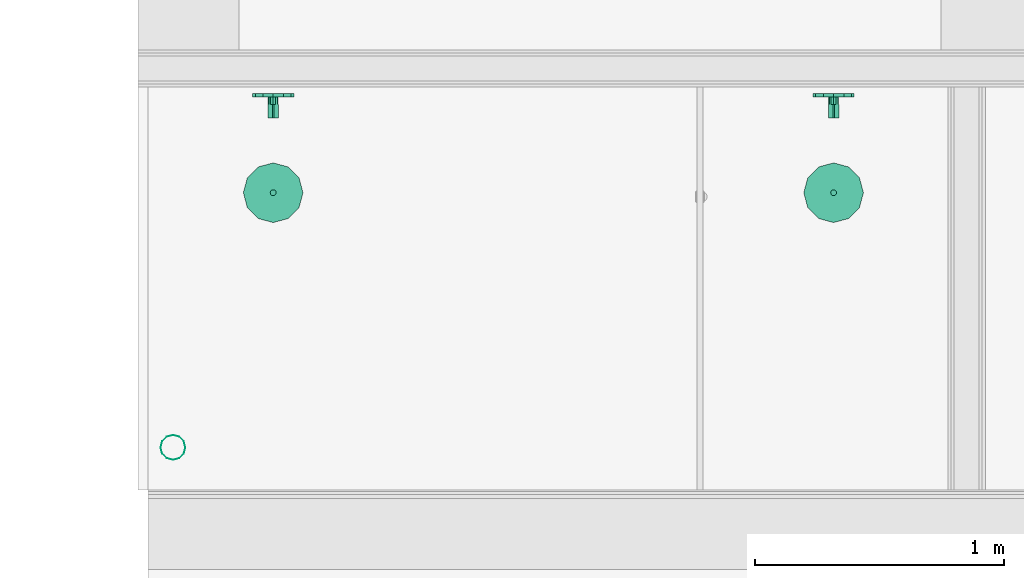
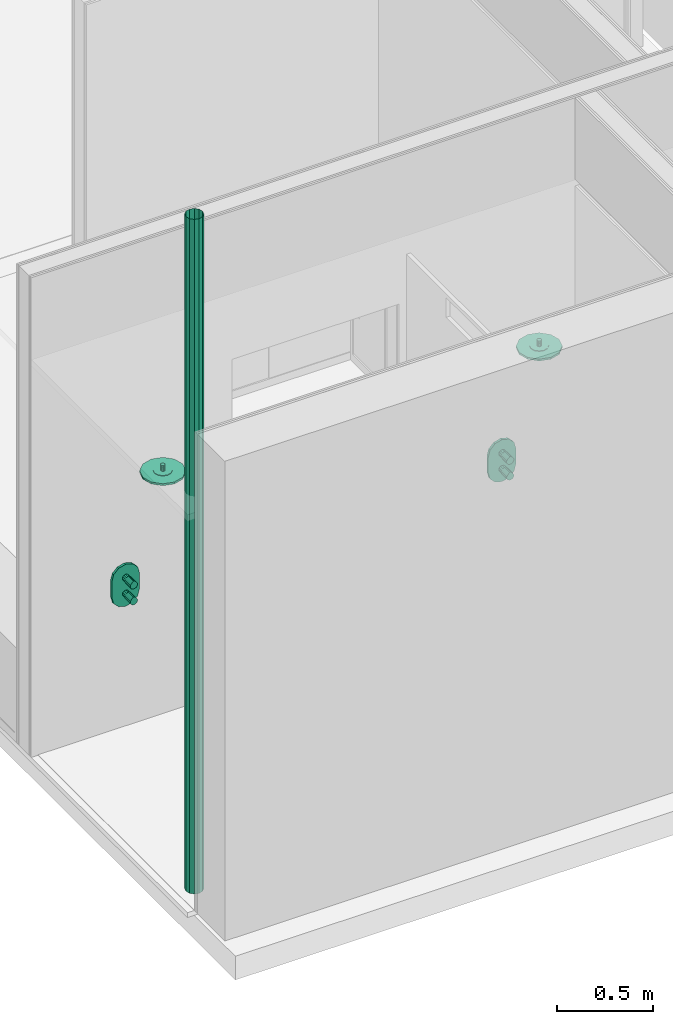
# One storey, part 27 of 35: 2 flow terminals, 1 distribution flow element.
"""IFC2X3 building model written with IfcOpenShell, lengths in millimetres."""

from ifc_helpers import new_model, entity, si_unit, converted_unit, derived_unit, money_unit, direction, frame, origin_with_axes, place, context, subcontext, project, spatial, open_shell, faceted_brep, surface_model, source, transform, mapped, type_object, type_shapes, element, save


model = new_model("IFC2X3")

# Units and contexts
model_context = context("Model", 3, precision=0.01, world=origin_with_axes(), true_north=direction((0.0, 1.0)))
body_context = subcontext(model_context, "Body", "Model", "MODEL_VIEW")
ifc_project = project(units=[si_unit("LENGTHUNIT", "METRE", prefix="MILLI"), si_unit("AREAUNIT", "SQUARE_METRE"), si_unit("VOLUMEUNIT", "CUBIC_METRE"), converted_unit("PLANEANGLEUNIT", "DEGREE", entity("IfcPlaneAngleMeasure", 0.0174532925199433), si_unit("PLANEANGLEUNIT", "RADIAN"), dimensions=[0, 0, 0, 0, 0, 0, 0]), money_unit("EUR"), converted_unit("TIMEUNIT", "Year", entity("IfcTimeMeasure", 31557600.0), si_unit("TIMEUNIT", "SECOND"), dimensions=[0, 0, 1, 0, 0, 0, 0]), si_unit("MASSUNIT", "GRAM", prefix="KILO"), si_unit("THERMODYNAMICTEMPERATUREUNIT", "DEGREE_CELSIUS"), si_unit("LUMINOUSINTENSITYUNIT", "LUMEN"), si_unit("ENERGYUNIT", "JOULE", prefix="MEGA"), derived_unit("THERMALCONDUCTANCEUNIT", [(si_unit("POWERUNIT", "WATT"), 1), (si_unit("LENGTHUNIT", "METRE"), -1), (si_unit("THERMODYNAMICTEMPERATUREUNIT", "KELVIN"), -1)]), derived_unit("SPECIFICHEATCAPACITYUNIT", [(si_unit("ENERGYUNIT", "JOULE"), 1), (si_unit("MASSUNIT", "GRAM", prefix="KILO"), -1), (si_unit("THERMODYNAMICTEMPERATUREUNIT", "KELVIN"), -1)]), derived_unit("MASSDENSITYUNIT", [(si_unit("MASSUNIT", "GRAM", prefix="KILO"), 1), (si_unit("VOLUMEUNIT", "CUBIC_METRE"), -1)])], contexts=[model_context])

# Site, building, storey
site_placement = place(None, origin_with_axes())
site = spatial("IfcSite", under=ifc_project, at=site_placement, Name="<site naam>", CompositionType="ELEMENT")
building_placement = place(site_placement, origin_with_axes())
building = spatial("IfcBuilding", under=site, at=building_placement, Name="<Naam gebouw>", CompositionType="ELEMENT")
storey_placement = place(building_placement, frame((0.0, 0.0, 6345.0), z_axis=(0.0, 0.0, 1.0), x_axis=(1.0, 0.0, 0.0)))
storey = spatial("IfcBuildingStorey", under=building, at=storey_placement, Name="02 2e tussenverdieping", CompositionType="ELEMENT", Elevation=6345.0)

# Flow terminals
sanitary_terminal_type = type_object("IfcSanitaryTerminalType", Name="Douche armatuur 27", PredefinedType="NOTDEFINED")
shared_shape_1 = source(origin_with_axes(), body_context, "Body", "Brep", [
    faceted_brep([(-83.0, 0.0, 1000.0), (-83.0, 0.0, 950.0), (-83.0, -15.0, 950.0), (-83.0, -15.0, 1000.0), (-83.0, 0.0, 1050.0), (-71.88010851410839, 0.0, 1091.5), (-41.49999999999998, 0.0, 1121.880108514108), (0.0, 0.0, 1133.0), (41.50000000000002, 0.0, 1121.880108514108), (71.88010851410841, 0.0, 1091.5), (83.0, 0.0, 1050.0), (83.0, 0.0, 950.0), (71.88010851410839, 0.0, 908.5), (41.49999999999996, 0.0, 878.1198914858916), (0.0, 0.0, 867.0), (-41.50000000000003, 0.0, 878.1198914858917), (-71.88010851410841, 0.0, 908.5), (-71.88010851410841, -15.00000000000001, 908.5), (-41.50000000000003, -15.00000000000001, 878.1198914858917), (0.0, -15.00000000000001, 867.0), (41.49999999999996, -15.00000000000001, 878.1198914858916), (71.88010851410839, -15.00000000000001, 908.5), (83.0, -15.0, 950.0), (83.0, -15.0, 1050.0), (71.88010851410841, -14.99999999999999, 1091.5), (41.50000000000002, -14.99999999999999, 1121.880108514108), (0.0, -14.99999999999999, 1133.0), (-41.49999999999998, -14.99999999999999, 1121.880108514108), (-71.88010851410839, -14.99999999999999, 1091.5), (-83.0, -15.0, 1050.0)], [[[0, 1, 2, 3]], [[0, 4, 5, 6, 7, 8, 9, 10, 11, 12, 13, 14, 15, 16, 1]], [[1, 16, 17, 2]], [[3, 2, 17, 18, 19, 20, 21, 22, 23, 24, 25, 26, 27, 28, 29]], [[4, 0, 3, 29]], [[5, 4, 29, 28]], [[6, 5, 28, 27]], [[7, 6, 27, 26]], [[8, 7, 26, 25]], [[9, 8, 25, 24]], [[10, 9, 24, 23]], [[11, 10, 23, 22]], [[12, 11, 22, 21]], [[13, 12, 21, 20]], [[14, 13, 20, 19]], [[15, 14, 19, 18]], [[16, 15, 18, 17]]]),
    faceted_brep([(17.32050807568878, -45.0, 960.0), (20.0, -45.0, 950.0), (20.0, -15.0, 950.0), (17.32050807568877, -15.0, 960.0), (10.00000000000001, -45.0, 967.3205080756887), (0.0, -45.0, 970.0), (-9.999999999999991, -45.0, 967.3205080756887), (-17.32050807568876, -45.0, 960.0), (-19.99999999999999, -45.0, 950.0), (-17.32050807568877, -45.0, 940.0), (-10.00000000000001, -45.0, 932.6794919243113), (0.0, -45.0, 929.9999999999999), (9.999999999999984, -45.0, 932.6794919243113), (17.32050807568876, -45.0, 940.0), (17.32050807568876, -15.0, 940.0), (9.999999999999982, -15.0, 932.6794919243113), (0.0, -15.0, 929.9999999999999), (-10.00000000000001, -15.0, 932.6794919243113), (-17.32050807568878, -15.0, 940.0), (-20.0, -15.0, 950.0), (-17.32050807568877, -15.0, 960.0), (-9.999999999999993, -15.0, 967.3205080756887), (0.0, -15.0, 970.0), (10.0, -15.0, 967.3205080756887)], [[[0, 1, 2, 3]], [[1, 0, 4, 5, 6, 7, 8, 9, 10, 11, 12, 13]], [[1, 13, 14, 2]], [[2, 14, 15, 16, 17, 18, 19, 20, 21, 22, 23, 3]], [[4, 0, 3, 23]], [[5, 4, 23, 22]], [[6, 5, 22, 21]], [[7, 6, 21, 20]], [[8, 7, 20, 19]], [[9, 8, 19, 18]], [[10, 9, 18, 17]], [[11, 10, 17, 16]], [[12, 11, 16, 15]], [[13, 12, 15, 14]]]),
    faceted_brep([(-3.111269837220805, -45.0, 978.0014285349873), (-15.55634918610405, -45.0, 965.5563491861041), (-15.55634918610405, -100.0, 965.5563491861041), (-3.111269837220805, -100.0, 978.0014285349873), (3.111269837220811, -45.0, 978.0014285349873), (15.55634918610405, -45.0, 965.5563491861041), (21.2503681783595, -45.0, 955.6940189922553), (21.2503681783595, -45.0, 944.3059810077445), (15.55634918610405, -45.0, 934.4436508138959), (5.694018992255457, -45.0, 928.7496318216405), (-5.694018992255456, -45.0, 928.7496318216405), (-15.55634918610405, -45.0, 934.4436508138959), (-21.2503681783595, -45.0, 944.3059810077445), (-21.2503681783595, -45.0, 955.6940189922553), (-21.2503681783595, -100.0, 955.6940189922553), (-21.2503681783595, -100.0, 944.3059810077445), (-15.55634918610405, -100.0, 934.4436508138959), (-5.694018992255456, -100.0, 928.7496318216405), (5.694018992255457, -100.0, 928.7496318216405), (15.55634918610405, -100.0, 934.4436508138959), (21.2503681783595, -100.0, 944.3059810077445), (21.2503681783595, -100.0, 955.6940189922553), (15.55634918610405, -100.0, 965.5563491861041), (3.111269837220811, -100.0, 978.0014285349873)], [[[0, 1, 2, 3]], [[0, 4, 5, 6, 7, 8, 9, 10, 11, 12, 13, 1]], [[1, 13, 14, 2]], [[3, 2, 14, 15, 16, 17, 18, 19, 20, 21, 22, 23]], [[4, 0, 3, 23]], [[5, 4, 23, 22]], [[6, 5, 22, 21]], [[7, 6, 21, 20]], [[8, 7, 20, 19]], [[9, 8, 19, 18]], [[10, 9, 18, 17]], [[11, 10, 17, 16]], [[12, 11, 16, 15]], [[13, 12, 15, 14]]]),
    faceted_brep([(17.32050807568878, -45.0, 1060.0), (20.0, -45.0, 1050.0), (20.0, -15.0, 1050.0), (17.32050807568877, -15.0, 1060.0), (10.00000000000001, -45.0, 1067.320508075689), (0.0, -45.0, 1070.0), (-9.999999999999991, -45.0, 1067.320508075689), (-17.32050807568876, -45.0, 1060.0), (-19.99999999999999, -45.0, 1050.0), (-17.32050807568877, -45.0, 1040.0), (-10.00000000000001, -45.0, 1032.679491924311), (0.0, -45.0, 1030.0), (9.999999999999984, -45.0, 1032.679491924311), (17.32050807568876, -45.0, 1040.0), (17.32050807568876, -15.0, 1040.0), (9.999999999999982, -15.0, 1032.679491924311), (0.0, -15.0, 1030.0), (-10.00000000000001, -15.0, 1032.679491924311), (-17.32050807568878, -15.0, 1040.0), (-20.0, -15.0, 1050.0), (-17.32050807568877, -15.0, 1060.0), (-9.999999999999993, -15.0, 1067.320508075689), (0.0, -15.0, 1070.0), (10.0, -15.0, 1067.320508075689)], [[[0, 1, 2, 3]], [[1, 0, 4, 5, 6, 7, 8, 9, 10, 11, 12, 13]], [[1, 13, 14, 2]], [[2, 14, 15, 16, 17, 18, 19, 20, 21, 22, 23, 3]], [[4, 0, 3, 23]], [[5, 4, 23, 22]], [[6, 5, 22, 21]], [[7, 6, 21, 20]], [[8, 7, 20, 19]], [[9, 8, 19, 18]], [[10, 9, 18, 17]], [[11, 10, 17, 16]], [[12, 11, 16, 15]], [[13, 12, 15, 14]]]),
    faceted_brep([(-3.111269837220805, -45.0, 1078.001428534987), (-15.55634918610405, -45.0, 1065.556349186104), (-15.55634918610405, -100.0, 1065.556349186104), (-3.111269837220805, -100.0, 1078.001428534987), (3.111269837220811, -45.0, 1078.001428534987), (15.55634918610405, -45.0, 1065.556349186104), (21.2503681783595, -45.0, 1055.694018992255), (21.2503681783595, -45.0, 1044.305981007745), (15.55634918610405, -45.0, 1034.443650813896), (5.694018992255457, -45.0, 1028.74963182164), (-5.694018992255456, -45.0, 1028.74963182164), (-15.55634918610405, -45.0, 1034.443650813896), (-21.2503681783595, -45.0, 1044.305981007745), (-21.2503681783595, -45.0, 1055.694018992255), (-21.2503681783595, -100.0, 1055.694018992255), (-21.2503681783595, -100.0, 1044.305981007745), (-15.55634918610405, -100.0, 1034.443650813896), (-5.694018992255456, -100.0, 1028.74963182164), (5.694018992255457, -100.0, 1028.74963182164), (15.55634918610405, -100.0, 1034.443650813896), (21.2503681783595, -100.0, 1044.305981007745), (21.2503681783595, -100.0, 1055.694018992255), (15.55634918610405, -100.0, 1065.556349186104), (3.111269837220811, -100.0, 1078.001428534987)], [[[0, 1, 2, 3]], [[0, 4, 5, 6, 7, 8, 9, 10, 11, 12, 13, 1]], [[1, 13, 14, 2]], [[3, 2, 14, 15, 16, 17, 18, 19, 20, 21, 22, 23]], [[4, 0, 3, 23]], [[5, 4, 23, 22]], [[6, 5, 22, 21]], [[7, 6, 21, 20]], [[8, 7, 20, 19]], [[9, 8, 19, 18]], [[10, 9, 18, 17]], [[11, 10, 17, 16]], [[12, 11, 16, 15]], [[13, 12, 15, 14]]]),
    faceted_brep([(54.99999999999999, -304.7372055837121, 1946.0), (0.0, -290.0000000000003, 1946.0), (0.0, -290.0000000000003, 1948.0), (54.99999999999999, -304.7372055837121, 1948.0), (95.26279441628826, -345.0000000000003, 1946.0), (110.0, -400.0000000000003, 1946.0), (95.26279441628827, -455.0000000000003, 1946.0), (55.00000000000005, -495.2627944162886, 1946.0), (0.0, -510.0000000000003, 1946.0), (-54.99999999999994, -495.2627944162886, 1946.0), (-95.26279441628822, -455.0000000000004, 1946.0), (-110.0, -400.0000000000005, 1946.0), (-95.2627944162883, -345.0000000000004, 1946.0), (-55.0000000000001, -304.7372055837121, 1946.0), (-55.0000000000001, -304.7372055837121, 1948.0), (0.0, -280.0000000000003, 1948.0), (60.0, -296.0769515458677, 1948.0), (95.26279441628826, -345.0000000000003, 1948.0), (110.0, -400.0000000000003, 1948.0), (95.26279441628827, -455.0000000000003, 1948.0), (55.00000000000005, -495.2627944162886, 1948.0), (0.0, -510.0000000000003, 1948.0), (-54.99999999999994, -495.2627944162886, 1948.0), (-95.26279441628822, -455.0000000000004, 1948.0), (-110.0, -400.0000000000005, 1948.0), (-95.2627944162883, -345.0000000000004, 1948.0), (-60.00000000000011, -296.0769515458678, 1948.0), (0.0, -280.0000000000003, 1960.0), (60.0, -296.0769515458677, 1960.0), (103.9230484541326, -340.0000000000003, 1948.0), (120.0, -400.0000000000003, 1948.0), (103.9230484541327, -460.0000000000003, 1948.0), (60.00000000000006, -503.9230484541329, 1948.0), (0.0, -520.0000000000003, 1948.0), (-59.99999999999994, -503.923048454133, 1948.0), (-103.9230484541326, -460.0000000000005, 1948.0), (-120.0, -400.0000000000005, 1948.0), (-103.9230484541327, -340.0000000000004, 1948.0), (-60.00000000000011, -296.0769515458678, 1960.0), (0.0, -350.0000000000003, 1960.0), (25.0, -356.6987298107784, 1960.0), (103.9230484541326, -340.0000000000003, 1960.0), (120.0, -400.0000000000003, 1960.0), (103.9230484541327, -460.0000000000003, 1960.0), (60.00000000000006, -503.9230484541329, 1960.0), (0.0, -520.0000000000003, 1960.0), (-59.99999999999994, -503.923048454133, 1960.0), (-103.9230484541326, -460.0000000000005, 1960.0), (-120.0, -400.0000000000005, 1960.0), (-103.9230484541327, -340.0000000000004, 1960.0), (-25.00000000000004, -356.6987298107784, 1960.0), (0.0, -350.0000000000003, 1963.0), (25.0, -356.6987298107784, 1963.0), (43.30127018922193, -375.0000000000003, 1960.0), (50.0, -400.0000000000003, 1960.0), (43.30127018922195, -425.0000000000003, 1960.0), (25.00000000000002, -443.3012701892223, 1960.0), (0.0, -450.0000000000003, 1960.0), (-24.99999999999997, -443.3012701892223, 1960.0), (-43.30127018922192, -425.0000000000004, 1960.0), (-50.0, -400.0000000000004, 1960.0), (-43.30127018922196, -375.0000000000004, 1960.0), (-25.00000000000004, -356.6987298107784, 1963.0), (0.0, -388.0000000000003, 1963.0), (6.000000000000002, -389.6076951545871, 1963.0), (43.30127018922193, -375.0000000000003, 1963.0), (50.0, -400.0000000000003, 1963.0), (43.30127018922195, -425.0000000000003, 1963.0), (25.00000000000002, -443.3012701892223, 1963.0), (0.0, -450.0000000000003, 1963.0), (-24.99999999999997, -443.3012701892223, 1963.0), (-43.30127018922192, -425.0000000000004, 1963.0), (-50.0, -400.0000000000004, 1963.0), (-43.30127018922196, -375.0000000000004, 1963.0), (-6.000000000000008, -389.6076951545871, 1963.0), (0.0, -388.0000000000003, 1984.0), (6.0, -389.6076951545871, 1984.0), (10.39230484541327, -394.0000000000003, 1963.0), (12.0, -400.0000000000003, 1963.0), (10.39230484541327, -406.0000000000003, 1963.0), (6.000000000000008, -410.3923048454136, 1963.0), (0.0, -412.0000000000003, 1963.0), (-5.99999999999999, -410.3923048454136, 1963.0), (-10.39230484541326, -406.0000000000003, 1963.0), (-12.0, -400.0000000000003, 1963.0), (-10.39230484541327, -394.0000000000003, 1963.0), (-6.00000000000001, -389.6076951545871, 1984.0), (0.0, -390.0000000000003, 1984.0), (5.0, -391.339745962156, 1984.0), (10.39230484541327, -394.0000000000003, 1984.0), (12.0, -400.0000000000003, 1984.0), (10.39230484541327, -406.0000000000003, 1984.0), (6.000000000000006, -410.3923048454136, 1984.0), (0.0, -412.0000000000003, 1984.0), (-5.999999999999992, -410.3923048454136, 1984.0), (-10.39230484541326, -406.0000000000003, 1984.0), (-12.0, -400.0000000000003, 1984.0), (-10.39230484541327, -394.0000000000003, 1984.0), (-5.000000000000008, -391.339745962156, 1984.0), (0.0, -390.0000000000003, 1987.0), (5.0, -391.339745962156, 1987.0), (8.660254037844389, -395.0000000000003, 1984.0), (10.0, -400.0000000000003, 1984.0), (8.66025403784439, -405.0000000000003, 1984.0), (5.000000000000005, -408.6602540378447, 1984.0), (0.0, -410.0000000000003, 1984.0), (-4.999999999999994, -408.6602540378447, 1984.0), (-8.660254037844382, -405.0000000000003, 1984.0), (-9.999999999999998, -400.0000000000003, 1984.0), (-8.66025403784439, -395.0000000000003, 1984.0), (-5.000000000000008, -391.339745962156, 1987.0), (0.0, -388.0000000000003, 1987.0), (6.0, -389.6076951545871, 1987.0), (8.660254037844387, -395.0000000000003, 1987.0), (10.0, -400.0000000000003, 1987.0), (8.660254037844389, -405.0000000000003, 1987.0), (5.000000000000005, -408.6602540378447, 1987.0), (0.0, -410.0000000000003, 1987.0), (-4.999999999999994, -408.6602540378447, 1987.0), (-8.660254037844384, -405.0000000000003, 1987.0), (-10.0, -400.0000000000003, 1987.0), (-8.66025403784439, -395.0000000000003, 1987.0), (-6.00000000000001, -389.6076951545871, 1987.0), (0.0, -388.0000000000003, 2000.0), (5.999999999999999, -389.6076951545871, 2000.0), (10.39230484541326, -394.0000000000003, 1987.0), (12.0, -400.0000000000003, 1987.0), (10.39230484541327, -406.0000000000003, 1987.0), (6.000000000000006, -410.3923048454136, 1987.0), (0.0, -412.0000000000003, 1987.0), (-5.999999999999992, -410.3923048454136, 1987.0), (-10.39230484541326, -406.0000000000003, 1987.0), (-12.0, -400.0000000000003, 1987.0), (-10.39230484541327, -394.0000000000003, 1987.0), (-6.000000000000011, -389.6076951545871, 2000.0), (-10.39230484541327, -394.0000000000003, 2000.0), (-12.0, -400.0000000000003, 2000.0), (-10.39230484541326, -406.0000000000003, 2000.0), (-5.999999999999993, -410.3923048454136, 2000.0), (0.0, -412.0000000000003, 2000.0), (6.000000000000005, -410.3923048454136, 2000.0), (10.39230484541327, -406.0000000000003, 2000.0), (12.0, -400.0000000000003, 2000.0), (10.39230484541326, -394.0000000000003, 2000.0)], [[[0, 1, 2, 3]], [[1, 0, 4, 5, 6, 7, 8, 9, 10, 11, 12, 13]], [[1, 13, 14, 2]], [[3, 2, 15, 16]], [[4, 0, 3, 17]], [[5, 4, 17, 18]], [[6, 5, 18, 19]], [[7, 6, 19, 20]], [[8, 7, 20, 21]], [[9, 8, 21, 22]], [[10, 9, 22, 23]], [[11, 10, 23, 24]], [[12, 11, 24, 25]], [[13, 12, 25, 14]], [[2, 14, 26, 15]], [[16, 15, 27, 28]], [[17, 3, 16, 29]], [[18, 17, 29, 30]], [[19, 18, 30, 31]], [[20, 19, 31, 32]], [[21, 20, 32, 33]], [[22, 21, 33, 34]], [[23, 22, 34, 35]], [[24, 23, 35, 36]], [[25, 24, 36, 37]], [[14, 25, 37, 26]], [[15, 26, 38, 27]], [[28, 27, 39, 40]], [[29, 16, 28, 41]], [[30, 29, 41, 42]], [[31, 30, 42, 43]], [[32, 31, 43, 44]], [[33, 32, 44, 45]], [[34, 33, 45, 46]], [[35, 34, 46, 47]], [[36, 35, 47, 48]], [[37, 36, 48, 49]], [[26, 37, 49, 38]], [[27, 38, 50, 39]], [[40, 39, 51, 52]], [[41, 28, 40, 53]], [[42, 41, 53, 54]], [[43, 42, 54, 55]], [[44, 43, 55, 56]], [[45, 44, 56, 57]], [[46, 45, 57, 58]], [[47, 46, 58, 59]], [[48, 47, 59, 60]], [[49, 48, 60, 61]], [[38, 49, 61, 50]], [[39, 50, 62, 51]], [[52, 51, 63, 64]], [[53, 40, 52, 65]], [[54, 53, 65, 66]], [[55, 54, 66, 67]], [[56, 55, 67, 68]], [[57, 56, 68, 69]], [[58, 57, 69, 70]], [[59, 58, 70, 71]], [[60, 59, 71, 72]], [[61, 60, 72, 73]], [[50, 61, 73, 62]], [[51, 62, 74, 63]], [[64, 63, 75, 76]], [[65, 52, 64, 77]], [[66, 65, 77, 78]], [[67, 66, 78, 79]], [[68, 67, 79, 80]], [[69, 68, 80, 81]], [[70, 69, 81, 82]], [[71, 70, 82, 83]], [[72, 71, 83, 84]], [[73, 72, 84, 85]], [[62, 73, 85, 74]], [[63, 74, 86, 75]], [[76, 75, 87, 88]], [[77, 64, 76, 89]], [[78, 77, 89, 90]], [[79, 78, 90, 91]], [[80, 79, 91, 92]], [[81, 80, 92, 93]], [[82, 81, 93, 94]], [[83, 82, 94, 95]], [[84, 83, 95, 96]], [[85, 84, 96, 97]], [[74, 85, 97, 86]], [[75, 86, 98, 87]], [[88, 87, 99, 100]], [[89, 76, 88, 101]], [[90, 89, 101, 102]], [[91, 90, 102, 103]], [[92, 91, 103, 104]], [[93, 92, 104, 105]], [[94, 93, 105, 106]], [[95, 94, 106, 107]], [[96, 95, 107, 108]], [[97, 96, 108, 109]], [[86, 97, 109, 98]], [[87, 98, 110, 99]], [[100, 99, 111, 112]], [[101, 88, 100, 113]], [[102, 101, 113, 114]], [[103, 102, 114, 115]], [[104, 103, 115, 116]], [[105, 104, 116, 117]], [[106, 105, 117, 118]], [[107, 106, 118, 119]], [[108, 107, 119, 120]], [[109, 108, 120, 121]], [[98, 109, 121, 110]], [[99, 110, 122, 111]], [[112, 111, 123, 124]], [[113, 100, 112, 125]], [[114, 113, 125, 126]], [[115, 114, 126, 127]], [[116, 115, 127, 128]], [[117, 116, 128, 129]], [[118, 117, 129, 130]], [[119, 118, 130, 131]], [[120, 119, 131, 132]], [[121, 120, 132, 133]], [[110, 121, 133, 122]], [[111, 122, 134, 123]], [[123, 134, 135, 136, 137, 138, 139, 140, 141, 142, 143, 124]], [[125, 112, 124, 143]], [[126, 125, 143, 142]], [[127, 126, 142, 141]], [[128, 127, 141, 140]], [[129, 128, 140, 139]], [[130, 129, 139, 138]], [[131, 130, 138, 137]], [[132, 131, 137, 136]], [[133, 132, 136, 135]], [[122, 133, 135, 134]]]),
])
type_shapes(sanitary_terminal_type, [shared_shape_1])
for number, where, z_axis, x_axis, name in (
    (1, (52678.06559805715, 2075.000132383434, -75.00000000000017), (0.0, 0.0, 1.0), (1.0, 0.0, 0.0), "74_Brandslanghaspelkast_Lege"),
    (2, (54933.01636561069, 2075.000000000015, -75.00000000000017), (0.0, 0.0, 1.0), (1.0, 0.0, 0.0), "74_Brandslanghaspelkast_Lege"),
):
    element("IfcFlowTerminal", number, at=place(storey_placement, frame(where, z_axis=z_axis, x_axis=x_axis)), inside=storey, type_object=sanitary_terminal_type, Name=name, ObjectType="Sanitary Terminal", context=body_context, shape_type="MappedRepresentation", body=[
        mapped(shared_shape_1, transform((0.0, 0.0, 0.0))),
    ])

# Distribution flow element
valve_type = type_object("IfcValveType", Name="Regenpijp 27", PredefinedType="AIRRELEASE")
shared_shape_2 = source(origin_with_axes(), body_context, "Body", "SurfaceModel", [
    surface_model("IfcShellBasedSurfaceModel", [(-50.0, -30.0, 4272.999999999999), (-50.0, -30.0, 0.0), (-43.30127018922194, -54.99999999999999, 0.0), (-43.30127018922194, -54.99999999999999, 4272.999999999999), (-43.30127018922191, -4.999999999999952, 4272.999999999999), (-43.30127018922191, -4.999999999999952, 0.0), (-25.00000000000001, -73.30127018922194, 0.0), (-25.00000000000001, -73.30127018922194, 4272.999999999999), (-24.99999999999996, 13.30127018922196, 4272.999999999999), (-24.99999999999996, 13.30127018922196, 0.0), (0.0, -80.0, 0.0), (0.0, -80.0, 4272.999999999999), (0.0, 20.0, 4272.999999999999), (0.0, 20.0, 0.0), (24.99999999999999, -73.30127018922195, 0.0), (24.99999999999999, -73.30127018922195, 4272.999999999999), (25.00000000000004, 13.30127018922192, 4272.999999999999), (25.00000000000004, 13.30127018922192, 0.0), (43.30127018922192, -55.00000000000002, 0.0), (43.30127018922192, -55.00000000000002, 4272.999999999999), (43.30127018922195, -5.000000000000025, 4272.999999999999), (43.30127018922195, -5.000000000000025, 0.0), (50.0, -30.00000000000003, 0.0), (50.0, -30.00000000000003, 4272.999999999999)], [open_shell([[[0, 1, 2, 3]], [[4, 5, 1, 0]], [[3, 2, 6, 7]], [[8, 9, 5, 4]], [[7, 6, 10, 11]], [[12, 13, 9, 8]], [[11, 10, 14, 15]], [[16, 17, 13, 12]], [[15, 14, 18, 19]], [[20, 21, 17, 16]], [[19, 18, 22, 23]], [[23, 22, 21, 20]]])]),
])
type_shapes(valve_type, [shared_shape_2])
distribution_flow_element_placement = place(storey_placement, frame((52275.00000000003, 680.0000000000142, 0.0), z_axis=(0.0, 0.0, 1.0), x_axis=(1.0, 0.0, 0.0)))
element("IfcDistributionFlowElement", 3, at=distribution_flow_element_placement, inside=storey, type_object=valve_type, Name="52_Wasmachine_Lege", context=body_context, shape_type="MappedRepresentation", body=[
    mapped(shared_shape_2, transform((0.0, 0.0, 0.0))),
])

save(model, "model.ifc")
